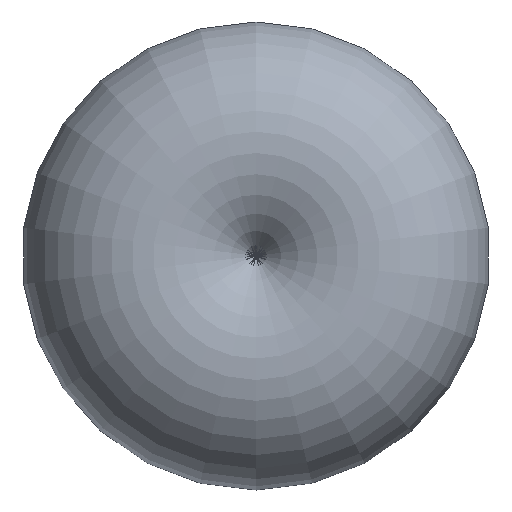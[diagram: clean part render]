
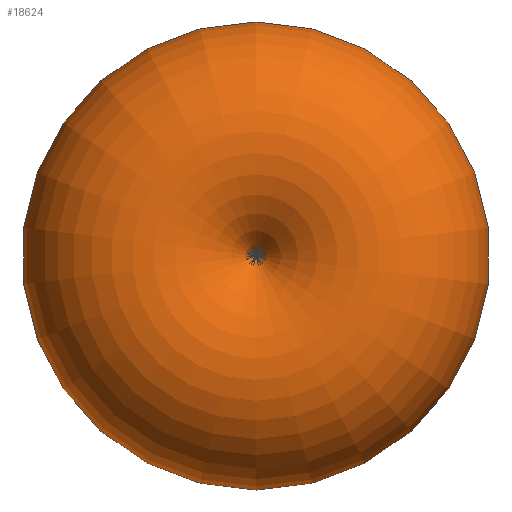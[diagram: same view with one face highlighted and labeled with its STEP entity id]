
A CAD part, top view. The second image highlights one B-rep face of the part: STEP entity #18624.
In plain terms, the highlighted toroidal (fillet/blend) face has major radius 74.582 mm and minor radius 86.585 mm.
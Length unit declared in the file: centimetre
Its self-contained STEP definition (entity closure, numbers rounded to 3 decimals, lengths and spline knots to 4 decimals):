
#162=DEGENERATE_TOROIDAL_SURFACE('',#20599,7.4583,8.6585,
 .F.);
#3307=CIRCLE('',#20576,1.1);
#3318=CIRCLE('',#20598,1.2);
#5293=VERTEX_POINT('',#32154);
#5304=VERTEX_POINT('',#32187);
#10196=EDGE_CURVE('',#5293,#5293,#3307,.T.);
#10209=EDGE_CURVE('',#5304,#5304,#3318,.T.);
#14975=ORIENTED_EDGE('',*,*,#10196,.F.);
#14976=ORIENTED_EDGE('',*,*,#10209,.T.);
#16316=EDGE_LOOP('',(#14975));
#16317=EDGE_LOOP('',(#14976));
#17619=FACE_BOUND('',#16316,.T.);
#17620=FACE_BOUND('',#16317,.T.);
#18624=ADVANCED_FACE('',(#17619,#17620),#162,.T.);
#20576=AXIS2_PLACEMENT_3D('',#32153,#25378,#25379);
#20598=AXIS2_PLACEMENT_3D('',#32186,#25417,#25418);
#20599=AXIS2_PLACEMENT_3D('',#32188,#25419,$);
#25378=DIRECTION('',(1.,0.,0.));
#25379=DIRECTION('',(0.,1.1,0.));
#25417=DIRECTION('',(1.,0.,0.));
#25418=DIRECTION('',(0.,1.2,0.));
#25419=DIRECTION('',(1.,0.,0.));
#32153=CARTESIAN_POINT('',(5.1,0.,0.));
#32154=CARTESIAN_POINT('',(5.1,1.1,0.));
#32186=CARTESIAN_POINT('',(3.85,0.,0.));
#32187=CARTESIAN_POINT('',(3.85,1.2,0.));
#32188=CARTESIAN_POINT('',(3.7863,0.,0.));
